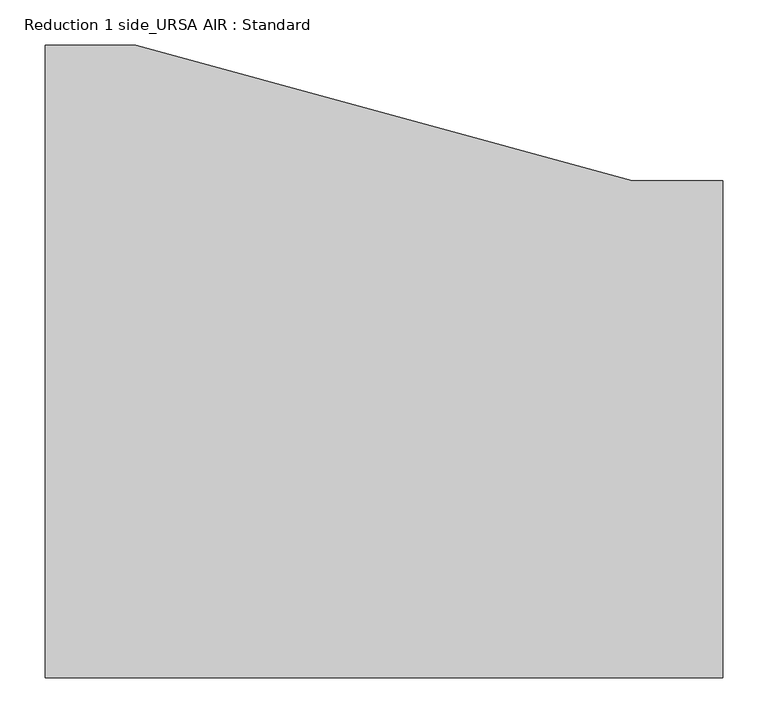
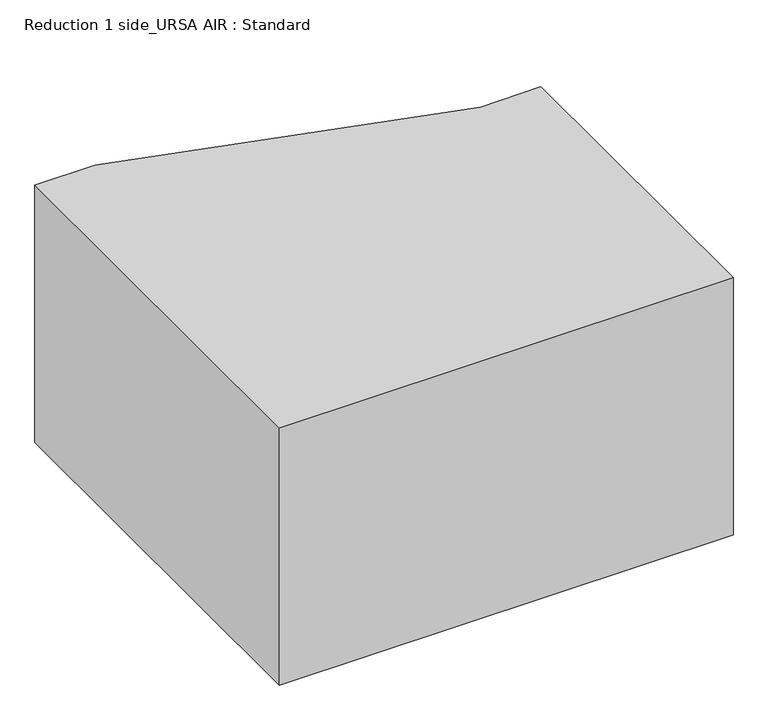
"""IFC4 building model written with IfcOpenShell, lengths in millimetres: duct fitting geometry, Reduction 1 side_URSA AIR : Standard."""

from ifc_helpers import new_model, si_unit, frame, origin, place, context, project, spatial, polyline, outline, extrude, source, transform, mapped, element, save


def reduction_1_side_ursa_air_standard_2a020c39(model_context):
    return source(origin(), model_context, "Body", "SweptSolid", [
        extrude(outline(polyline([(750.0, 200.0), (750.0, -350.0), (0.0, -350.0), (0.0, 350.0), (100.0, 350.0), (650.0, 200.0), (750.0, 200.0)])), frame((0.0, 0.0, -225.0), z_axis=(0.0, 0.0, 1.0), x_axis=(1.0, 0.0, 0.0)), (0.0, 0.0, 1.0), 450.0),
    ])


if __name__ == "__main__":
    model = new_model("IFC4")
    model_context = context("Model", 3, world=origin())
    ifc_project = project(units=[si_unit("LENGTHUNIT", "METRE", prefix="MILLI")], contexts=[model_context])
    site = spatial("IfcSite", under=ifc_project)
    building = spatial("IfcBuilding", under=site)
    placement = place(None, origin())
    reduction_1_side_ursa_air_standard_shape = reduction_1_side_ursa_air_standard_2a020c39(model_context)
    element("IfcDuctFitting", 1, ObjectType="Reduction 1 side_URSA AIR : Standard", at=placement, inside=building, context=model_context, shape_type="MappedRepresentation", body=[
        mapped(reduction_1_side_ursa_air_standard_shape, transform((0.0, 0.0, 0.0), x_axis=(1.0, 0.0, 0.0), y_axis=(0.0, 1.0, 0.0), z_axis=(0.0, 0.0, 1.0))),
    ])
    save(model, "model.ifc")
